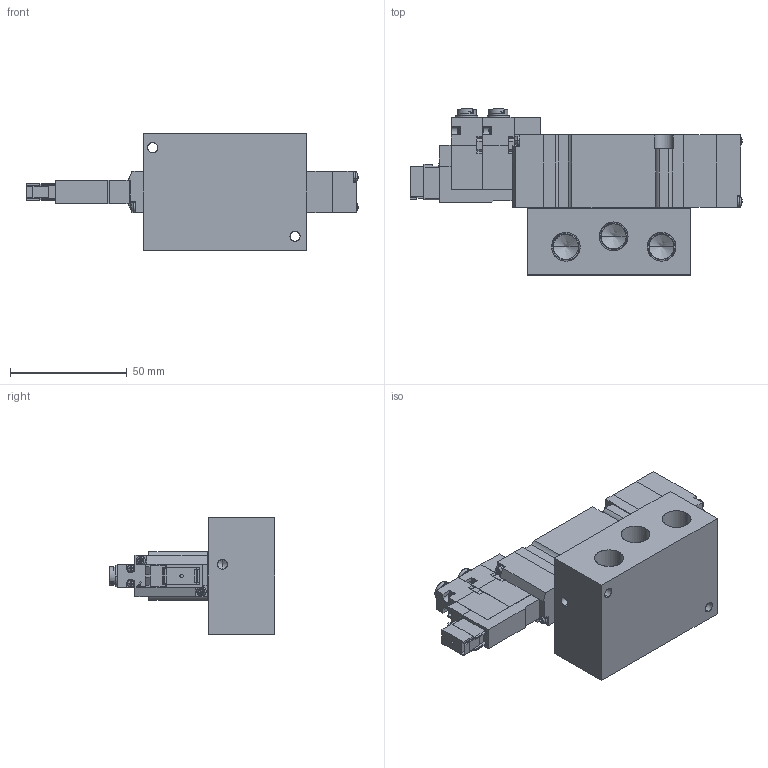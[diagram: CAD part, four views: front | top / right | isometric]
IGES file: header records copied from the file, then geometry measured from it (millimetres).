
Start section: SolidWorks IGES file using analytic representation for surfaces
Global section: file name: D:\Custom\3D繪製\ADEX\A20G\A20GD35#-#-#-E.IGS,1; native system: 5HSolidWorks 2014; preprocessor: SolidWorks 2014; author: Chieh_Lu; date: 150726.231526; units: millimetre
Bounding box: 142.3 x 71.1 x 50 mm (x, y, z)
Surface area: 44917.7 mm2 (no closed solid volume)
Topology: 0 solids, 0 shells, 937 faces, 8028 edges, 7994 vertices
Faces by surface type: bspline 642, revolution 295
